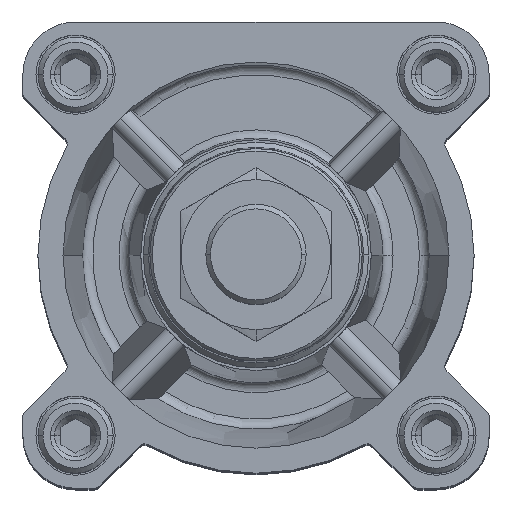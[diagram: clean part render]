
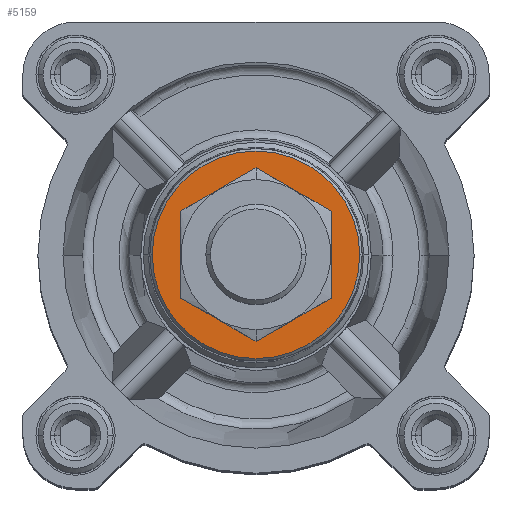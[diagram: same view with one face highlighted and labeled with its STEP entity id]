
A CAD part, top view. The second image highlights one B-rep face of the part: STEP entity #5159.
In plain terms, the highlighted planar face has unit normal (0, 0, 1).
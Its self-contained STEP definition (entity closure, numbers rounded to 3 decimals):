
#621 = DIRECTION ( 'NONE',  ( 0., 0., -1. ) ) ;
#680 = CARTESIAN_POINT ( 'NONE',  ( 0., 0., 34.2 ) ) ;
#1388 = CARTESIAN_POINT ( 'NONE',  ( 20.686, 0., 34.2 ) ) ;
#1818 = CARTESIAN_POINT ( 'NONE',  ( -20.686, 0., 34.2 ) ) ;
#2094 = CARTESIAN_POINT ( 'NONE',  ( 12.5, 0., 34.2 ) ) ;
#3275 = FACE_OUTER_BOUND ( 'NONE', #8784, .T. ) ;
#3526 = DIRECTION ( 'NONE',  ( 0., 0., -1. ) ) ;
#3553 = PLANE ( 'NONE',  #6386 ) ;
#4368 = EDGE_CURVE ( 'NONE', #13391, #7063, #11452, .T. ) ;
#4923 = DIRECTION ( 'NONE',  ( -1., 0., 0. ) ) ;
#4983 = CARTESIAN_POINT ( 'NONE',  ( -12.5, 0., 34.2 ) ) ;
#5159 = ADVANCED_FACE ( 'NONE', ( #3275, #17624 ), #3553, .F. ) ;
#5717 = AXIS2_PLACEMENT_3D ( 'NONE', #17509, #3526, #7783 ) ;
#6386 = AXIS2_PLACEMENT_3D ( 'NONE', #13558, #621, #9047 ) ;
#6690 = ORIENTED_EDGE ( 'NONE', *, *, #18101, .T. ) ;
#7063 = VERTEX_POINT ( 'NONE', #4983 ) ;
#7587 = EDGE_CURVE ( 'NONE', #13301, #11323, #17876, .T. ) ;
#7783 = DIRECTION ( 'NONE',  ( -1., 0., 0. ) ) ;
#8053 = DIRECTION ( 'NONE',  ( -1., 0., 0. ) ) ;
#8784 = EDGE_LOOP ( 'NONE', ( #16145, #15416 ) ) ;
#8837 = AXIS2_PLACEMENT_3D ( 'NONE', #680, #13708, #8053 ) ;
#9047 = DIRECTION ( 'NONE',  ( 0., -1., 0. ) ) ;
#9642 = CARTESIAN_POINT ( 'NONE',  ( 0., 0., 34.2 ) ) ;
#10888 = EDGE_LOOP ( 'NONE', ( #6690, #18080 ) ) ;
#11029 = CIRCLE ( 'NONE', #15854, 12.5 ) ;
#11323 = VERTEX_POINT ( 'NONE', #1388 ) ;
#11452 = CIRCLE ( 'NONE', #5717, 12.5 ) ;
#12103 = CARTESIAN_POINT ( 'NONE',  ( 0., 0., 34.2 ) ) ;
#12422 = EDGE_CURVE ( 'NONE', #11323, #13301, #16526, .T. ) ;
#13301 = VERTEX_POINT ( 'NONE', #1818 ) ;
#13317 = DIRECTION ( 'NONE',  ( 0., 0., -1. ) ) ;
#13391 = VERTEX_POINT ( 'NONE', #2094 ) ;
#13558 = CARTESIAN_POINT ( 'NONE',  ( 0., 0., 34.2 ) ) ;
#13708 = DIRECTION ( 'NONE',  ( 0., 0., -1. ) ) ;
#14069 = DIRECTION ( 'NONE',  ( -1., 0., 0. ) ) ;
#14718 = AXIS2_PLACEMENT_3D ( 'NONE', #9642, #16901, #14069 ) ;
#15416 = ORIENTED_EDGE ( 'NONE', *, *, #12422, .F. ) ;
#15854 = AXIS2_PLACEMENT_3D ( 'NONE', #12103, #13317, #4923 ) ;
#16145 = ORIENTED_EDGE ( 'NONE', *, *, #7587, .F. ) ;
#16526 = CIRCLE ( 'NONE', #14718, 20.686 ) ;
#16901 = DIRECTION ( 'NONE',  ( 0., 0., -1. ) ) ;
#17509 = CARTESIAN_POINT ( 'NONE',  ( 0., 0., 34.2 ) ) ;
#17624 = FACE_BOUND ( 'NONE', #10888, .T. ) ;
#17876 = CIRCLE ( 'NONE', #8837, 20.686 ) ;
#18080 = ORIENTED_EDGE ( 'NONE', *, *, #4368, .T. ) ;
#18101 = EDGE_CURVE ( 'NONE', #7063, #13391, #11029, .T. ) ;
